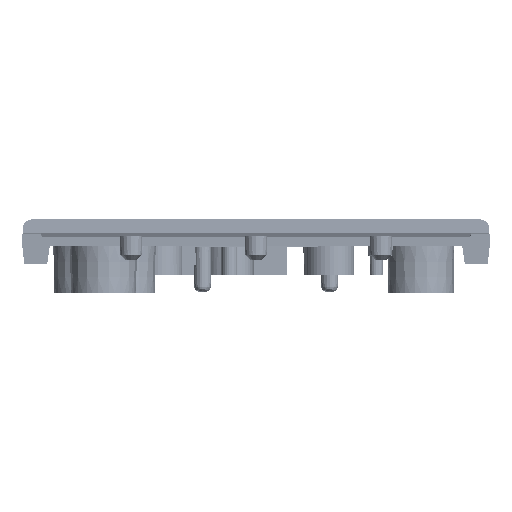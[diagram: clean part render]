
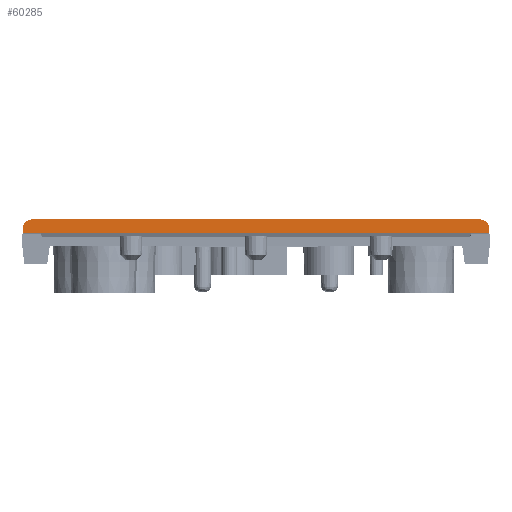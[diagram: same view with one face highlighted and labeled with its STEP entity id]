
A CAD part, left-side view. The second image highlights one B-rep face of the part: STEP entity #60285.
In plain terms, the highlighted planar face has unit normal (-0.999, 0, 0.035).
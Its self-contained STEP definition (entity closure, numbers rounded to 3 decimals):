
#4523=DIRECTION('',(0.,1.,0.));
#4524=VECTOR('',#4523,50.288);
#4525=CARTESIAN_POINT('',(-377.121,-25.144,47.86));
#4526=LINE('',#4525,#4524);
#11021=DIRECTION('',(-0.035,0.052,-0.998));
#11022=VECTOR('',#11021,0.553);
#11023=CARTESIAN_POINT('',(-377.154,26.143,
46.912));
#11024=LINE('',#11023,#11022);
#11517=CARTESIAN_POINT('',(-377.154,-26.143,
46.912));
#11518=CARTESIAN_POINT('',(-377.148,-26.134,
47.07));
#11519=CARTESIAN_POINT('',(-377.139,-26.055,
47.32));
#11520=CARTESIAN_POINT('',(-377.13,-25.846,
47.6));
#11521=CARTESIAN_POINT('',(-377.123,-25.556,
47.794));
#11522=CARTESIAN_POINT('',(-377.121,-25.302,47.86));
#11523=CARTESIAN_POINT('',(-377.121,-25.144,47.86));
#11525=DIRECTION('',(-0.035,-0.052,-0.998));
#11526=VECTOR('',#11525,0.553);
#11527=CARTESIAN_POINT('',(-377.154,-26.143,
46.912));
#11528=LINE('',#11527,#11526);
#11529=DIRECTION('',(0.,1.,0.));
#11530=VECTOR('',#11529,52.343);
#11531=CARTESIAN_POINT('',(-377.173,-26.172,46.36));
#11532=LINE('',#11531,#11530);
#11533=CARTESIAN_POINT('',(-377.121,25.144,47.86));
#11534=CARTESIAN_POINT('',(-377.121,25.302,47.86));
#11535=CARTESIAN_POINT('',(-377.123,25.556,
47.794));
#11536=CARTESIAN_POINT('',(-377.13,25.846,
47.6));
#11537=CARTESIAN_POINT('',(-377.139,26.055,
47.32));
#11538=CARTESIAN_POINT('',(-377.148,26.134,
47.07));
#11539=CARTESIAN_POINT('',(-377.154,26.143,
46.912));
#49470=CARTESIAN_POINT('',(-377.173,-26.172,46.36));
#49471=CARTESIAN_POINT('',(-377.173,26.172,46.36));
#49472=VERTEX_POINT('',#49470);
#49473=VERTEX_POINT('',#49471);
#49474=VERTEX_POINT('',#11517);
#49475=VERTEX_POINT('',#11523);
#49476=VERTEX_POINT('',#11533);
#49477=VERTEX_POINT('',#11539);
#60272=CARTESIAN_POINT('',(-377.173,-37.2,46.36));
#60273=DIRECTION('',(-0.999,0.,0.035));
#60274=DIRECTION('',(0.,1.,0.));
#60275=AXIS2_PLACEMENT_3D('',#60272,#60273,#60274);
#60276=PLANE('',#60275);
#60277=ORIENTED_EDGE('',*,*,#59751,.F.);
#60278=ORIENTED_EDGE('',*,*,#59773,.T.);
#60279=ORIENTED_EDGE('',*,*,#60221,.T.);
#60280=ORIENTED_EDGE('',*,*,#59697,.F.);
#60281=ORIENTED_EDGE('',*,*,#59720,.F.);
#60282=ORIENTED_EDGE('',*,*,#53069,.F.);
#60283=EDGE_LOOP('',(#60277,#60278,#60279,#60280,#60281,#60282));
#60284=FACE_OUTER_BOUND('',#60283,.F.);
#60285=ADVANCED_FACE('',(#60284),#60276,.T.);
#11524=B_SPLINE_CURVE_WITH_KNOTS('',3,(#11517,#11518,#11519,#11520,#11521,
#11522,#11523),.UNSPECIFIED.,.F.,.F.,(4,1,1,1,4),(0.,0.25,0.5,0.75,
1.),.UNSPECIFIED.);
#11540=B_SPLINE_CURVE_WITH_KNOTS('',3,(#11533,#11534,#11535,#11536,#11537,
#11538,#11539),.UNSPECIFIED.,.F.,.F.,(4,1,1,1,4),(0.,0.25,0.5,0.75,
1.),.UNSPECIFIED.);
#53069=EDGE_CURVE('',#49475,#49476,#4526,.T.);
#59697=EDGE_CURVE('',#49477,#49473,#11024,.T.);
#59720=EDGE_CURVE('',#49476,#49477,#11540,.T.);
#59751=EDGE_CURVE('',#49474,#49475,#11524,.T.);
#59773=EDGE_CURVE('',#49474,#49472,#11528,.T.);
#60221=EDGE_CURVE('',#49472,#49473,#11532,.T.);
